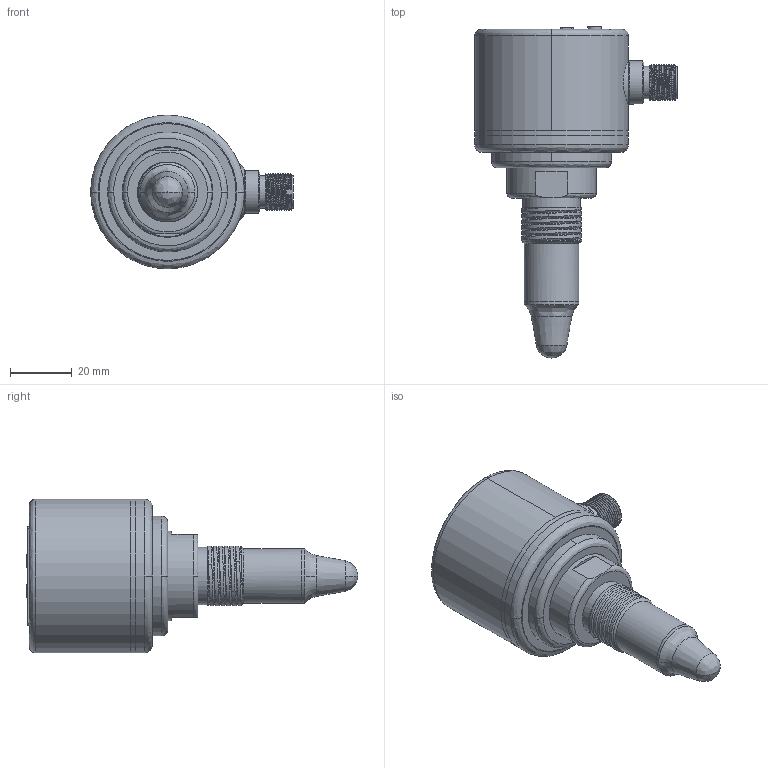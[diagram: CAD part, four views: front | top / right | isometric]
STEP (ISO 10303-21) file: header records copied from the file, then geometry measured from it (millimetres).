
FILE_DESCRIPTION(('STEP AP214'), '1');
FILE_NAME('ELS-052-T', '2025-03-04T11:00:40', (''), (''), 'ASCON STEP Converter 1.6', 'ASCON Math Kernel', '');
FILE_SCHEMA(('AUTOMOTIVE_DESIGN { 1 0 10303 214 3 1 1}'));
Length unit declared in the file: millimetre
Bounding box: 65.9 x 107.9 x 50 mm (x, y, z)
Volume: 124298.7 mm3; surface area: 51212.7 mm2
Topology: 12 solids, 13 shells, 368 faces, 858 edges, 547 vertices
Faces by surface type: plane 167, cylinder 117, bspline 62, cone 22
Full cylindrical faces by diameter (mm): 1 x9, 1.2 x2, 1.8 x1, 2 x2, 3.8 x2, 4.3 x2, 4.5 x2, 8.514 x1, 9.6 x1, 9.7 x1, 10.5 x2, 11 x1, 14 x1, 14.722 x1, 17.8 x2, 18.6 x1, 24 x1, 29 x1, 29.5 x2, 33 x2, 44.5 x2, 45.6 x2, 45.8 x1, 48 x4, 48.2 x1, 50 x2
Entity records: 31945 total; most frequent: CARTESIAN_POINT 17913, ORIENTED_EDGE 1556, DIRECTION 1446, EDGE_CURVE 778, PROPERTY_DEFINITION 736, PROPERTY_DEFINITION_REPRESENTATION 736, REPRESENTATION 736, AXIS2_PLACEMENT_3D 568
